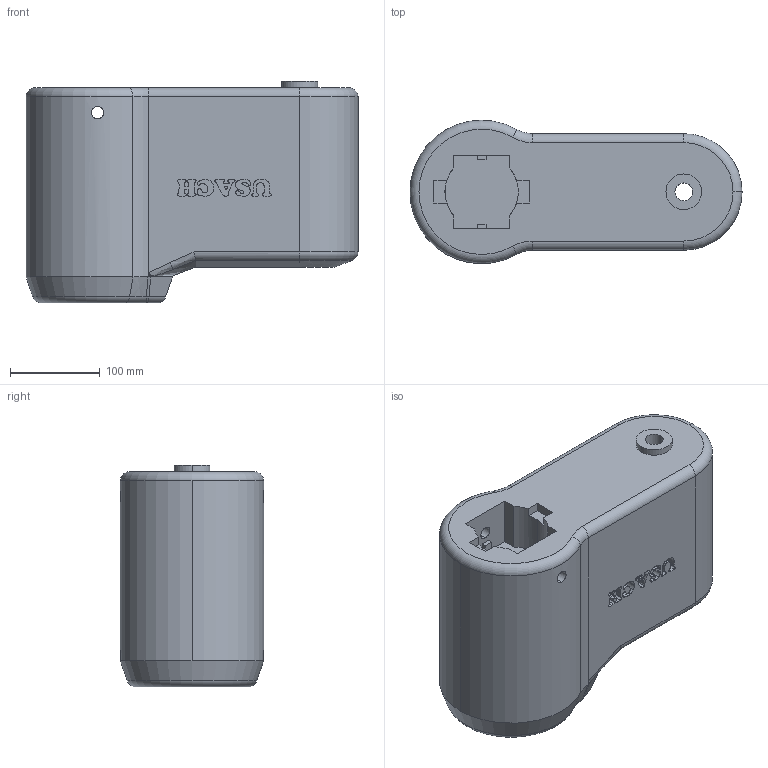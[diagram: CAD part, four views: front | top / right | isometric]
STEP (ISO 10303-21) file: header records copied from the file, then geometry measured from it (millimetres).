
FILE_DESCRIPTION (( 'STEP AP203' ), '1' );
FILE_NAME ('Eslabon2_Predeterminado_sldprt.STEP', '2024-09-30T13:48:36', ( '' ), ( '' ), 'SwSTEP 2.0', 'SolidWorks 2022', '' );
FILE_SCHEMA (( 'CONFIG_CONTROL_DESIGN' ));
Length unit declared in the file: millimetre
Products named in the file (1): Eslabon2_Predeterminado_sldprt
Bounding box: 370.92 x 160 x 247.8 mm (x, y, z)
Volume: 9711792.7 mm3; surface area: 326177.2 mm2
Topology: 1 solids, 1 shells, 418 faces, 1173 edges, 771 vertices
Faces by surface type: bspline 312, plane 61, cylinder 26, torus 9, cone 7, sphere 3
Entity records: 23647 total; most frequent: CARTESIAN_POINT 14941, ORIENTED_EDGE 2346, EDGE_CURVE 1173, DIRECTION 819, VERTEX_POINT 771, B_SPLINE_CURVE_WITH_KNOTS 635, LINE 461, VECTOR 461
